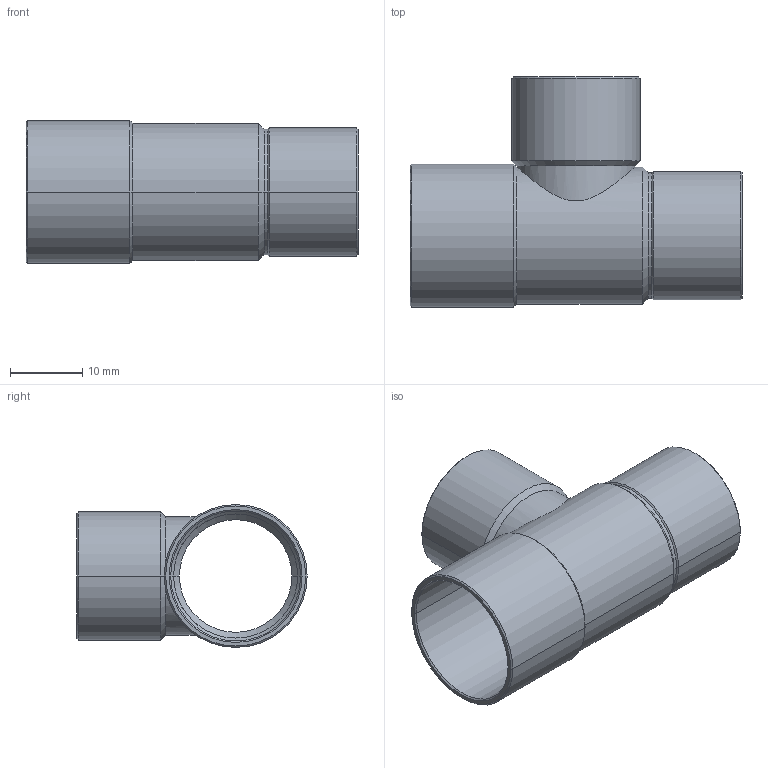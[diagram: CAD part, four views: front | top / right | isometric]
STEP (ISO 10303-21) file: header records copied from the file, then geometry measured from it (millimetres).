
FILE_DESCRIPTION((''),'2;1');
FILE_NAME('P:\Bouwmaten\z-maattekeningen 3D\5000\5130\5130181616.stp','2005-10-26T11:53:24',('Kris'),(''),'Autodesk Inventor 8','Autodesk Inventor 8','');
FILE_SCHEMA(('AUTOMOTIVE_DESIGN { 1 0 10303 214 1 1 1 1 }'));
Length unit declared in the file: millimetre
Products named in the file (1): 5130181616
Bounding box: 46 x 31.9 x 19.8 mm (x, y, z)
Volume: 2858.4 mm3; surface area: 6534.1 mm2
Topology: 1 solids, 1 shells, 55 faces, 116 edges, 62 vertices
Faces by surface type: cone 28, cylinder 24, plane 3
Entity records: 1543 total; most frequent: CARTESIAN_POINT 320, DIRECTION 278, ORIENTED_EDGE 232, EDGE_CURVE 116, AXIS2_PLACEMENT_3D 112, VERTEX_POINT 62, EDGE_LOOP 58, CIRCLE 56
